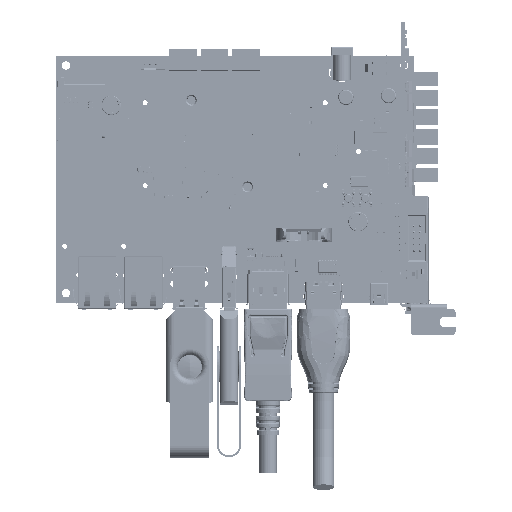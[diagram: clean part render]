
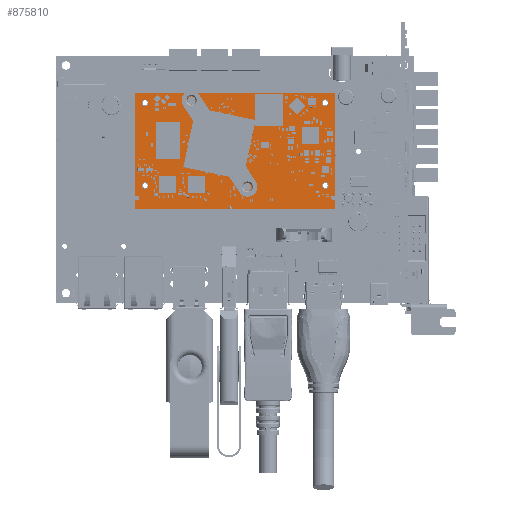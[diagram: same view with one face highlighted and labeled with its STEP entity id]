
A CAD part, top view. The second image highlights one B-rep face of the part: STEP entity #875810.
In plain terms, the highlighted planar face has unit normal (0, 0, 1).
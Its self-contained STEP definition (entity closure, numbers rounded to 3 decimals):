
#874943 = VERTEX_POINT('',#874944);
#874944 = CARTESIAN_POINT('',(0.,6.2,1.2));
#874950 = EDGE_CURVE('',#874943,#874951,#874953,.T.);
#874951 = VERTEX_POINT('',#874952);
#874952 = CARTESIAN_POINT('',(1.2,6.2,1.2));
#874953 = LINE('',#874954,#874955);
#874954 = CARTESIAN_POINT('',(0.,6.2,1.2));
#874955 = VECTOR('',#874956,1.);
#874956 = DIRECTION('',(1.,0.,0.));
#874990 = VERTEX_POINT('',#874991);
#874991 = CARTESIAN_POINT('',(1.7,6.7,1.2));
#874997 = EDGE_CURVE('',#874951,#874990,#874998,.T.);
#874998 = CIRCLE('',#874999,0.498);
#874999 = AXIS2_PLACEMENT_3D('',#875000,#875001,#875002);
#875000 = CARTESIAN_POINT('',(1.202,6.698,1.2));
#875001 = DIRECTION('',(0.,0.,1.));
#875002 = DIRECTION('',(-0.003,-1.,0.));
#875014 = EDGE_CURVE('',#874990,#875015,#875017,.T.);
#875015 = VERTEX_POINT('',#875016);
#875016 = CARTESIAN_POINT('',(1.7,7.2,1.2));
#875017 = LINE('',#875018,#875019);
#875018 = CARTESIAN_POINT('',(1.7,6.7,1.2));
#875019 = VECTOR('',#875020,1.);
#875020 = DIRECTION('',(0.,1.,0.));
#875054 = VERTEX_POINT('',#875055);
#875055 = CARTESIAN_POINT('',(1.2,7.7,1.2));
#875061 = EDGE_CURVE('',#875015,#875054,#875062,.T.);
#875062 = CIRCLE('',#875063,0.498);
#875063 = AXIS2_PLACEMENT_3D('',#875064,#875065,#875066);
#875064 = CARTESIAN_POINT('',(1.202,7.202,1.2));
#875065 = DIRECTION('',(0.,0.,1.));
#875066 = DIRECTION('',(1.,-0.003,0.));
#875078 = EDGE_CURVE('',#875054,#875079,#875081,.T.);
#875079 = VERTEX_POINT('',#875080);
#875080 = CARTESIAN_POINT('',(0.,7.7,1.2));
#875081 = LINE('',#875082,#875083);
#875082 = CARTESIAN_POINT('',(1.2,7.7,1.2));
#875083 = VECTOR('',#875084,1.);
#875084 = DIRECTION('',(-1.,0.,0.));
#875109 = EDGE_CURVE('',#875079,#875110,#875112,.T.);
#875110 = VERTEX_POINT('',#875111);
#875111 = CARTESIAN_POINT('',(0.,50.,1.2));
#875112 = LINE('',#875113,#875114);
#875113 = CARTESIAN_POINT('',(0.,7.7,1.2));
#875114 = VECTOR('',#875115,1.);
#875115 = DIRECTION('',(0.,1.,0.));
#875140 = EDGE_CURVE('',#875110,#875141,#875143,.T.);
#875141 = VERTEX_POINT('',#875142);
#875142 = CARTESIAN_POINT('',(82.,50.,1.2));
#875143 = LINE('',#875144,#875145);
#875144 = CARTESIAN_POINT('',(0.,50.,1.2));
#875145 = VECTOR('',#875146,1.);
#875146 = DIRECTION('',(1.,0.,0.));
#875171 = EDGE_CURVE('',#875141,#875172,#875174,.T.);
#875172 = VERTEX_POINT('',#875173);
#875173 = CARTESIAN_POINT('',(82.,7.7,1.2));
#875174 = LINE('',#875175,#875176);
#875175 = CARTESIAN_POINT('',(82.,50.,1.2));
#875176 = VECTOR('',#875177,1.);
#875177 = DIRECTION('',(0.,-1.,0.));
#875202 = EDGE_CURVE('',#875172,#875203,#875205,.T.);
#875203 = VERTEX_POINT('',#875204);
#875204 = CARTESIAN_POINT('',(80.8,7.7,1.2)
  );
#875205 = LINE('',#875206,#875207);
#875206 = CARTESIAN_POINT('',(82.,7.7,1.2));
#875207 = VECTOR('',#875208,1.);
#875208 = DIRECTION('',(-1.,0.,0.));
#875242 = VERTEX_POINT('',#875243);
#875243 = CARTESIAN_POINT('',(80.3,7.2,1.2)
  );
#875249 = EDGE_CURVE('',#875203,#875242,#875250,.T.);
#875250 = CIRCLE('',#875251,0.498);
#875251 = AXIS2_PLACEMENT_3D('',#875252,#875253,#875254);
#875252 = CARTESIAN_POINT('',(80.798,7.202,1.2)
  );
#875253 = DIRECTION('',(0.,0.,1.));
#875254 = DIRECTION('',(0.003,1.,-0.));
#875266 = EDGE_CURVE('',#875242,#875267,#875269,.T.);
#875267 = VERTEX_POINT('',#875268);
#875268 = CARTESIAN_POINT('',(80.3,6.7,1.2)
  );
#875269 = LINE('',#875270,#875271);
#875270 = CARTESIAN_POINT('',(80.3,7.2,1.2)
  );
#875271 = VECTOR('',#875272,1.);
#875272 = DIRECTION('',(0.,-1.,0.));
#875306 = VERTEX_POINT('',#875307);
#875307 = CARTESIAN_POINT('',(80.8,6.2,1.2)
  );
#875313 = EDGE_CURVE('',#875267,#875306,#875314,.T.);
#875314 = CIRCLE('',#875315,0.498);
#875315 = AXIS2_PLACEMENT_3D('',#875316,#875317,#875318);
#875316 = CARTESIAN_POINT('',(80.798,6.698,1.2)
  );
#875317 = DIRECTION('',(0.,0.,1.));
#875318 = DIRECTION('',(-1.,0.003,0.));
#875330 = EDGE_CURVE('',#875306,#875331,#875333,.T.);
#875331 = VERTEX_POINT('',#875332);
#875332 = CARTESIAN_POINT('',(82.,6.2,1.2));
#875333 = LINE('',#875334,#875335);
#875334 = CARTESIAN_POINT('',(80.8,6.2,1.2)
  );
#875335 = VECTOR('',#875336,1.);
#875336 = DIRECTION('',(1.,0.,0.));
#875361 = EDGE_CURVE('',#875331,#875362,#875364,.T.);
#875362 = VERTEX_POINT('',#875363);
#875363 = CARTESIAN_POINT('',(82.,0.,1.2));
#875364 = LINE('',#875365,#875366);
#875365 = CARTESIAN_POINT('',(82.,6.2,1.2));
#875366 = VECTOR('',#875367,1.);
#875367 = DIRECTION('',(0.,-1.,0.));
#875392 = EDGE_CURVE('',#875362,#875393,#875395,.T.);
#875393 = VERTEX_POINT('',#875394);
#875394 = CARTESIAN_POINT('',(39.5,0.,1.2));
#875395 = LINE('',#875396,#875397);
#875396 = CARTESIAN_POINT('',(82.,0.,1.2));
#875397 = VECTOR('',#875398,1.);
#875398 = DIRECTION('',(-1.,0.,0.));
#875423 = EDGE_CURVE('',#875393,#875424,#875426,.T.);
#875424 = VERTEX_POINT('',#875425);
#875425 = CARTESIAN_POINT('',(39.5,3.3,1.2));
#875426 = LINE('',#875427,#875428);
#875427 = CARTESIAN_POINT('',(39.5,0.,1.2));
#875428 = VECTOR('',#875429,1.);
#875429 = DIRECTION('',(0.,1.,0.));
#875463 = VERTEX_POINT('',#875464);
#875464 = CARTESIAN_POINT('',(38.5,3.3,1.2));
#875470 = EDGE_CURVE('',#875424,#875463,#875471,.T.);
#875471 = CIRCLE('',#875472,0.5);
#875472 = AXIS2_PLACEMENT_3D('',#875473,#875474,#875475);
#875473 = CARTESIAN_POINT('',(39.,3.3,1.2));
#875474 = DIRECTION('',(0.,0.,1.));
#875475 = DIRECTION('',(1.,0.,-0.));
#875487 = EDGE_CURVE('',#875463,#875488,#875490,.T.);
#875488 = VERTEX_POINT('',#875489);
#875489 = CARTESIAN_POINT('',(38.5,0.,1.2));
#875490 = LINE('',#875491,#875492);
#875491 = CARTESIAN_POINT('',(38.5,3.3,1.2));
#875492 = VECTOR('',#875493,1.);
#875493 = DIRECTION('',(0.,-1.,0.));
#875518 = EDGE_CURVE('',#875488,#875519,#875521,.T.);
#875519 = VERTEX_POINT('',#875520);
#875520 = CARTESIAN_POINT('',(0.,0.,1.2));
#875521 = LINE('',#875522,#875523);
#875522 = CARTESIAN_POINT('',(38.5,0.,1.2));
#875523 = VECTOR('',#875524,1.);
#875524 = DIRECTION('',(-1.,0.,0.));
#875549 = EDGE_CURVE('',#875519,#874943,#875550,.T.);
#875550 = LINE('',#875551,#875552);
#875551 = CARTESIAN_POINT('',(0.,0.,1.2));
#875552 = VECTOR('',#875553,1.);
#875553 = DIRECTION('',(0.,1.,0.));
#875580 = VERTEX_POINT('',#875581);
#875581 = CARTESIAN_POINT('',(5.35,12.,1.2));
#875587 = EDGE_CURVE('',#875580,#875580,#875588,.T.);
#875588 = CIRCLE('',#875589,1.35);
#875589 = AXIS2_PLACEMENT_3D('',#875590,#875591,#875592);
#875590 = CARTESIAN_POINT('',(4.,12.,1.2));
#875591 = DIRECTION('',(0.,0.,1.));
#875592 = DIRECTION('',(1.,0.,-0.));
#875613 = VERTEX_POINT('',#875614);
#875614 = CARTESIAN_POINT('',(5.35,46.,1.2));
#875620 = EDGE_CURVE('',#875613,#875613,#875621,.T.);
#875621 = CIRCLE('',#875622,1.35);
#875622 = AXIS2_PLACEMENT_3D('',#875623,#875624,#875625);
#875623 = CARTESIAN_POINT('',(4.,46.,1.2));
#875624 = DIRECTION('',(0.,0.,1.));
#875625 = DIRECTION('',(1.,0.,-0.));
#875646 = VERTEX_POINT('',#875647);
#875647 = CARTESIAN_POINT('',(24.6,47.,1.2));
#875653 = EDGE_CURVE('',#875646,#875646,#875654,.T.);
#875654 = CIRCLE('',#875655,1.6);
#875655 = AXIS2_PLACEMENT_3D('',#875656,#875657,#875658);
#875656 = CARTESIAN_POINT('',(23.,47.,1.2));
#875657 = DIRECTION('',(0.,0.,1.));
#875658 = DIRECTION('',(1.,0.,-0.));
#875679 = VERTEX_POINT('',#875680);
#875680 = CARTESIAN_POINT('',(47.6,11.4,1.2));
#875686 = EDGE_CURVE('',#875679,#875679,#875687,.T.);
#875687 = CIRCLE('',#875688,1.6);
#875688 = AXIS2_PLACEMENT_3D('',#875689,#875690,#875691);
#875689 = CARTESIAN_POINT('',(46.,11.4,1.2));
#875690 = DIRECTION('',(0.,0.,1.));
#875691 = DIRECTION('',(1.,0.,-0.));
#875712 = VERTEX_POINT('',#875713);
#875713 = CARTESIAN_POINT('',(79.35,46.,1.2));
#875719 = EDGE_CURVE('',#875712,#875712,#875720,.T.);
#875720 = CIRCLE('',#875721,1.35);
#875721 = AXIS2_PLACEMENT_3D('',#875722,#875723,#875724);
#875722 = CARTESIAN_POINT('',(78.,46.,1.2));
#875723 = DIRECTION('',(0.,0.,1.));
#875724 = DIRECTION('',(1.,0.,-0.));
#875745 = VERTEX_POINT('',#875746);
#875746 = CARTESIAN_POINT('',(79.35,12.,1.2));
#875752 = EDGE_CURVE('',#875745,#875745,#875753,.T.);
#875753 = CIRCLE('',#875754,1.35);
#875754 = AXIS2_PLACEMENT_3D('',#875755,#875756,#875757);
#875755 = CARTESIAN_POINT('',(78.,12.,1.2));
#875756 = DIRECTION('',(0.,0.,1.));
#875757 = DIRECTION('',(1.,0.,-0.));
#875810 = ADVANCED_FACE('',(#875811,#875833,#875836,#875839,#875842,
    #875845,#875848),#875851,.F.);
#875811 = FACE_BOUND('',#875812,.F.);
#875812 = EDGE_LOOP('',(#875813,#875814,#875815,#875816,#875817,#875818,
    #875819,#875820,#875821,#875822,#875823,#875824,#875825,#875826,
    #875827,#875828,#875829,#875830,#875831,#875832));
#875813 = ORIENTED_EDGE('',*,*,#874950,.T.);
#875814 = ORIENTED_EDGE('',*,*,#874997,.T.);
#875815 = ORIENTED_EDGE('',*,*,#875014,.T.);
#875816 = ORIENTED_EDGE('',*,*,#875061,.T.);
#875817 = ORIENTED_EDGE('',*,*,#875078,.T.);
#875818 = ORIENTED_EDGE('',*,*,#875109,.T.);
#875819 = ORIENTED_EDGE('',*,*,#875140,.T.);
#875820 = ORIENTED_EDGE('',*,*,#875171,.T.);
#875821 = ORIENTED_EDGE('',*,*,#875202,.T.);
#875822 = ORIENTED_EDGE('',*,*,#875249,.T.);
#875823 = ORIENTED_EDGE('',*,*,#875266,.T.);
#875824 = ORIENTED_EDGE('',*,*,#875313,.T.);
#875825 = ORIENTED_EDGE('',*,*,#875330,.T.);
#875826 = ORIENTED_EDGE('',*,*,#875361,.T.);
#875827 = ORIENTED_EDGE('',*,*,#875392,.T.);
#875828 = ORIENTED_EDGE('',*,*,#875423,.T.);
#875829 = ORIENTED_EDGE('',*,*,#875470,.T.);
#875830 = ORIENTED_EDGE('',*,*,#875487,.T.);
#875831 = ORIENTED_EDGE('',*,*,#875518,.T.);
#875832 = ORIENTED_EDGE('',*,*,#875549,.T.);
#875833 = FACE_BOUND('',#875834,.F.);
#875834 = EDGE_LOOP('',(#875835));
#875835 = ORIENTED_EDGE('',*,*,#875587,.T.);
#875836 = FACE_BOUND('',#875837,.F.);
#875837 = EDGE_LOOP('',(#875838));
#875838 = ORIENTED_EDGE('',*,*,#875620,.T.);
#875839 = FACE_BOUND('',#875840,.F.);
#875840 = EDGE_LOOP('',(#875841));
#875841 = ORIENTED_EDGE('',*,*,#875653,.T.);
#875842 = FACE_BOUND('',#875843,.F.);
#875843 = EDGE_LOOP('',(#875844));
#875844 = ORIENTED_EDGE('',*,*,#875686,.T.);
#875845 = FACE_BOUND('',#875846,.F.);
#875846 = EDGE_LOOP('',(#875847));
#875847 = ORIENTED_EDGE('',*,*,#875719,.T.);
#875848 = FACE_BOUND('',#875849,.F.);
#875849 = EDGE_LOOP('',(#875850));
#875850 = ORIENTED_EDGE('',*,*,#875752,.T.);
#875851 = PLANE('',#875852);
#875852 = AXIS2_PLACEMENT_3D('',#875853,#875854,#875855);
#875853 = CARTESIAN_POINT('',(0.,6.2,1.2));
#875854 = DIRECTION('',(0.,0.,-1.));
#875855 = DIRECTION('',(-1.,0.,-0.));
